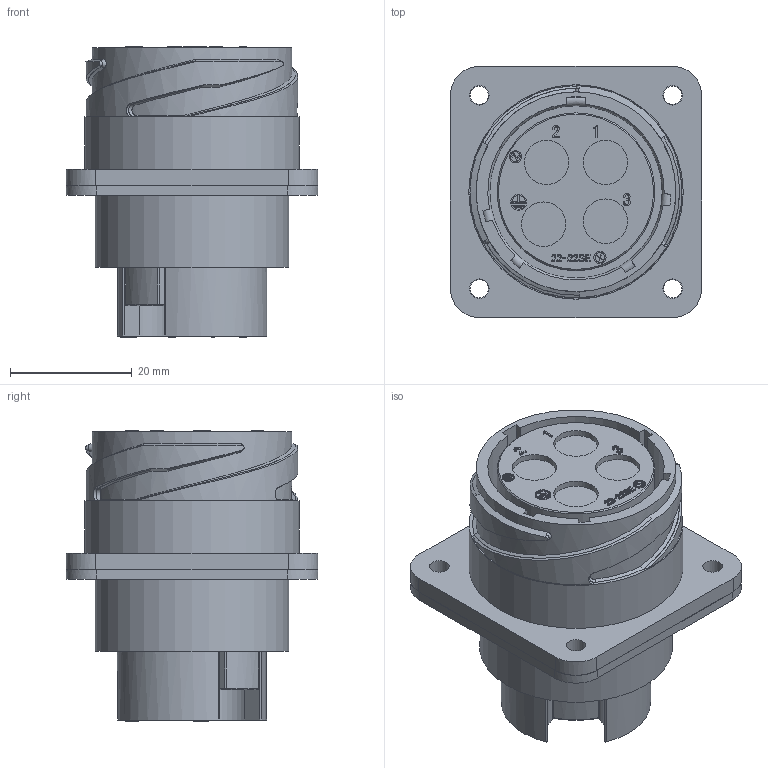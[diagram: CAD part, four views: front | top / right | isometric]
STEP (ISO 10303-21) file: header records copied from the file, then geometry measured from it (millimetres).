
FILE_DESCRIPTION (( 'STEP AP203' ), '1' );
FILE_NAME ('CE01-2A22-22SC-D0S(R1).STEP', '2021-04-27T01:45:58', ( '' ), ( '' ), 'SwSTEP 2.0', 'SolidWorks 2018', '' );
FILE_SCHEMA (( 'CONFIG_CONTROL_DESIGN' ));
Length unit declared in the file: millimetre
Products named in the file (1): CE01-2A22-22SC-D0S(R1)
Bounding box: 41.3 x 41.3 x 47.7 mm (x, y, z)
Volume: 34989 mm3; surface area: 13858.5 mm2
Topology: 1 solids, 1 shells, 519 faces, 1344 edges, 875 vertices
Faces by surface type: plane 216, bspline 210, cylinder 77, cone 11, torus 3, sphere 2
Full cylindrical faces by diameter (mm): 1.6 x2, 2 x2, 2.6 x2, 3 x4, 3.2 x4, 7.25 x3, 7.3 x4, 24.5 x1, 25.9 x1, 27.9 x1, 31.37 x1, 31.75 x1, 31.8 x1, 32.82 x1, 35.22 x1
Entity records: 29589 total; most frequent: CARTESIAN_POINT 18398, ORIENTED_EDGE 2596, DIRECTION 1653, EDGE_CURVE 1298, VERTEX_POINT 864, VECTOR 649, LINE 649, EDGE_LOOP 608
